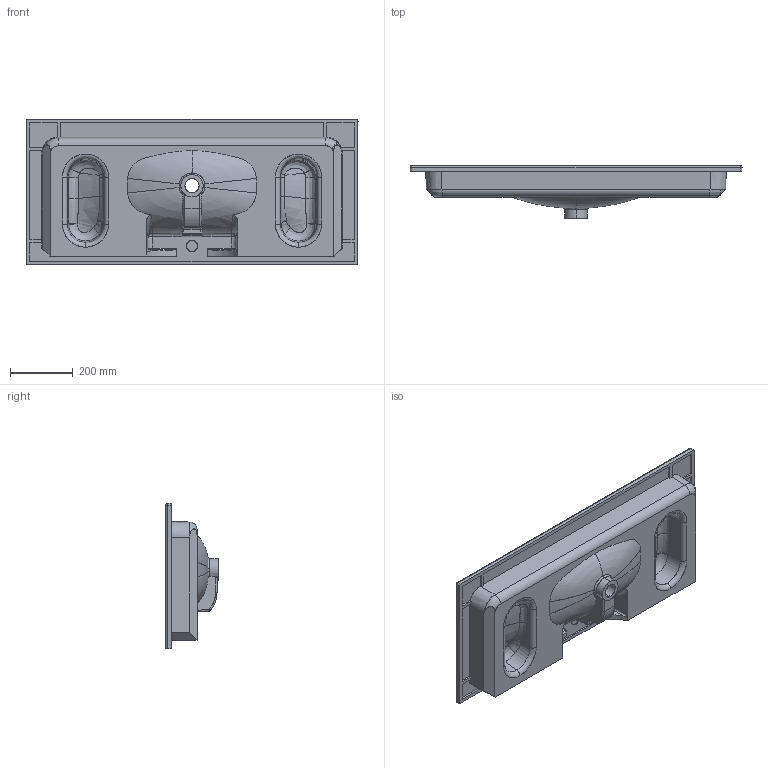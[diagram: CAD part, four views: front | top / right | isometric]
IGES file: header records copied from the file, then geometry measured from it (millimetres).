
Start section: SolidWorks IGES file using NURBS representation for surfaces
Global section: file name: C:\Users\User\Desktop\Soft\lavabi definitivi soft 46 m\soft 1060 x 465\definitivo soft 1060 x 465.IGS; native system: SolidWorks 2016; preprocessor: SolidWorks 2016; author: User; date: 200804.152107; units: millimetre
Bounding box: 1060 x 168 x 465 mm (x, y, z)
Surface area: 1436890.9 mm2 (no closed solid volume)
Topology: 0 solids, 0 shells, 195 faces, 3014 edges, 3006 vertices
Faces by surface type: bspline 195
